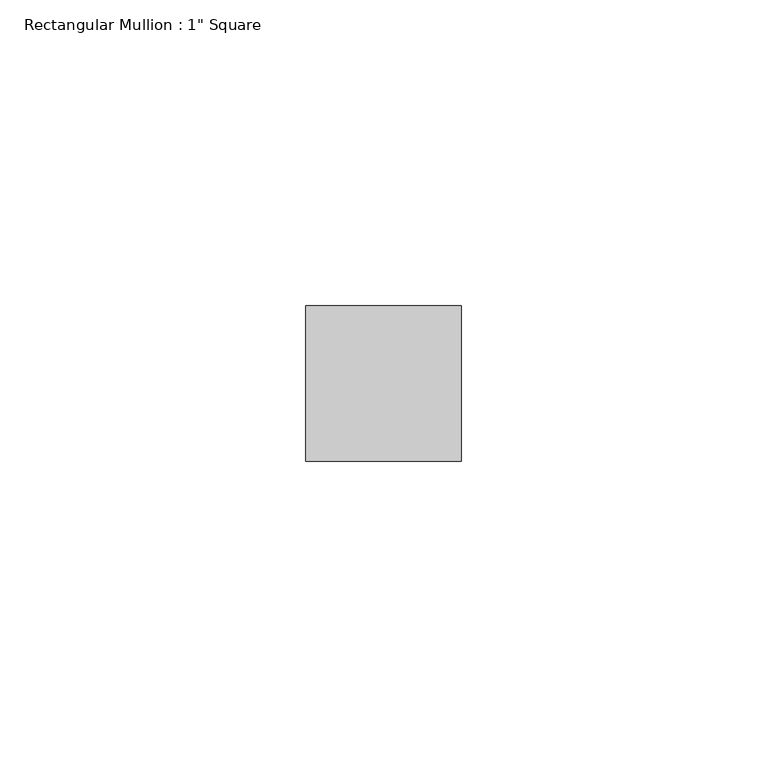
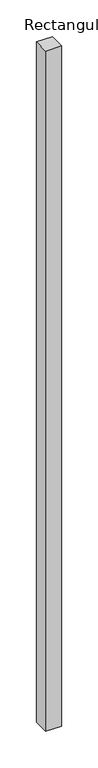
"""IFC4 building model written with IfcOpenShell, lengths in millimetres: member geometry."""

from ifc_helpers import new_model, si_unit, frame, origin, place, context, project, spatial, polyline, outline, extrude, source, transform, mapped, element, save


def member_16816f3b(model_context):
    return source(origin(), model_context, "Body", "SweptSolid", [
        extrude(outline(polyline([(12.7, 12.7), (12.7, -12.7), (-12.7, -12.7), (-12.7, 12.7), (12.7, 12.7)])), frame((0.0, 0.0, -1136.9863078), z_axis=(0.0, 0.0, 1.0), x_axis=(1.0, 0.0, 0.0)), (0.0, 0.0, 1.0), 1136.9863078),
    ])


if __name__ == "__main__":
    model = new_model("IFC4")
    model_context = context("Model", 3, world=origin())
    ifc_project = project(units=[si_unit("LENGTHUNIT", "METRE", prefix="MILLI")], contexts=[model_context])
    site = spatial("IfcSite", under=ifc_project)
    building = spatial("IfcBuilding", under=site)
    placement = place(None, origin())
    member_shape = member_16816f3b(model_context)
    element("IfcMember", 1, ObjectType="Rectangular Mullion : 1\" Square", at=placement, inside=building, context=model_context, shape_type="MappedRepresentation", body=[
        mapped(member_shape, transform((0.0, 0.0, 0.0), x_axis=(1.0, 0.0, 0.0), y_axis=(0.0, 1.0, 0.0), z_axis=(0.0, 0.0, 1.0))),
    ])
    save(model, "model.ifc")
